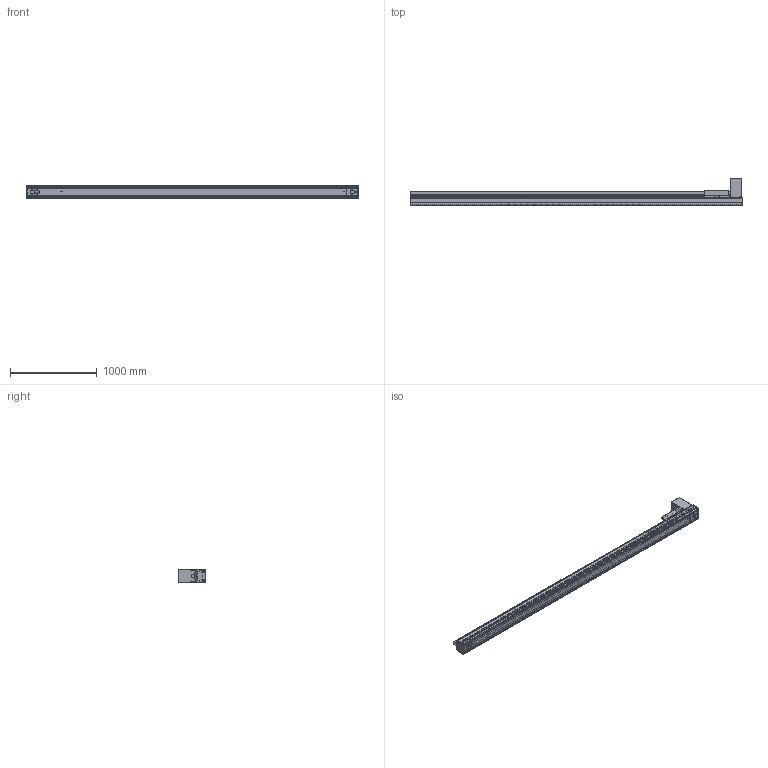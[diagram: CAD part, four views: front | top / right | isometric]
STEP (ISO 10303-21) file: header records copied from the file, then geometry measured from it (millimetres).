
FILE_DESCRIPTION((''),'2;1');
FILE_NAME('BE50G-BT-L19N-W25_IGS_PRT','2017-06-18T',(' '),(''),'PRO/ENGINEER BY PARAMETRIC TECHNOLOGY CORPORATION, 2015030','PRO/ENGINEER BY PARAMETRIC TECHNOLOGY CORPORATION, 2015030','');
FILE_SCHEMA(('CONFIG_CONTROL_DESIGN'));
Products named in the file (1): BE50G-BT-L19N-W25_IGS_PRT
Bounding box: 3820 x 309 x 160 mm (x, y, z)
Volume: 15563781 mm3; surface area: 7611220.5 mm2
Topology: 10 solids, 343 shells, 2385 faces, 7085 edges, 4908 vertices
Faces by surface type: cylinder 1313, plane 827, cone 202, sphere 23, torus 20
Entity records: 85234 total; most frequent: CARTESIAN_POINT 20575, DIRECTION 13331, ORIENTED_EDGE 12938, EDGE_CURVE 7011, AXIS2_PLACEMENT_3D 5107, VERTEX_POINT 4908, VECTOR 3117, LINE 3117
